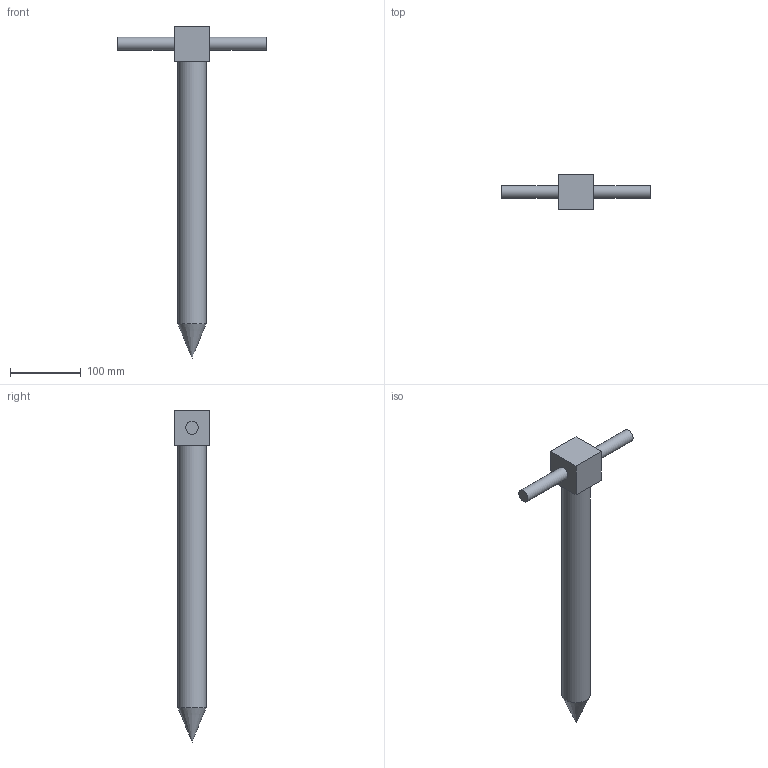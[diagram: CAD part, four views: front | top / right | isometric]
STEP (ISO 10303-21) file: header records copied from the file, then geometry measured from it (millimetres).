
FILE_DESCRIPTION(('STEP AP242'), '1');
FILE_NAME('Ðó÷êà', '', ('UNSPECIFIED'), ('UNSPECIFIED'), 'C3D Converter', 'C3D Toolkit', '');
FILE_SCHEMA(('AP242_MANAGED_MODEL_BASED_3D_ENGINEERING_MIM_LF { 1 0 10303 442 1 1 4 }'));
Length unit declared in the file: millimetre
Bounding box: 210 x 50 x 468.28 mm (x, y, z)
Volume: 650896 mm3; surface area: 72570.5 mm2
Topology: 1 solids, 1 shells, 12 faces, 23 edges, 15 vertices
Faces by surface type: plane 8, cylinder 3, cone 1
Full cylindrical faces by diameter (mm): 18 x2, 40 x1
Entity records: 316 total; most frequent: DIRECTION 50, CARTESIAN_POINT 45, ORIENTED_EDGE 36, AXIS2_PLACEMENT_3D 19, EDGE_LOOP 18, EDGE_CURVE 18, VERTEX_POINT 14, ADVANCED_FACE 12
